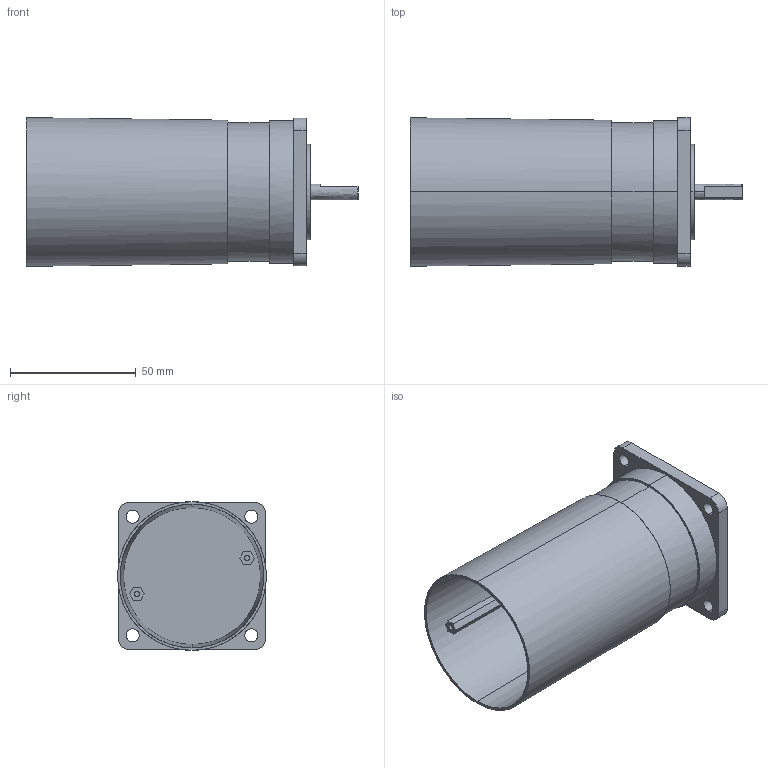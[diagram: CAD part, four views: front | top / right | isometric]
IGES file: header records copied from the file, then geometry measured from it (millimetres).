
Global section: file name: MAC050-A1.igs; native system:  By Spatial Corp.; preprocessor: XPlus GENERIC/IGES 3.0; author: Author; organization: Title; date: 20060113.090159; units: millimetre
Bounding box: 131.77 x 58.89 x 59 mm (x, y, z)
Surface area: 43891.1 mm2 (no closed solid volume)
Topology: 0 solids, 0 shells, 58 faces, 276 edges, 276 vertices
Faces by surface type: bspline 58
